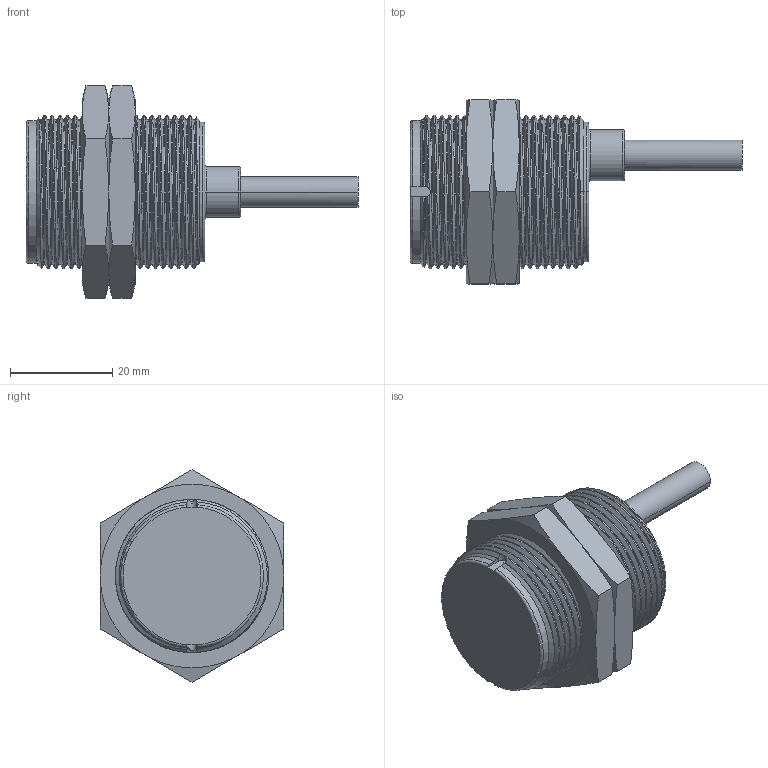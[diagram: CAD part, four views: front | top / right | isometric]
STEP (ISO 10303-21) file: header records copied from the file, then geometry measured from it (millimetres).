
FILE_DESCRIPTION((''),'2;1');
FILE_NAME('6490653380_SW0001','2025-01-14T11:19:54',('Rudolf.Poettker'),(''),'CREO PARAMETRIC BY PTC INC, 2022124','CREO PARAMETRIC BY PTC INC, 2022124','');
FILE_SCHEMA(('AUTOMOTIVE_DESIGN { 1 0 10303 214 1 1 1 1 }'));
Length unit declared in the file: millimetre
Products named in the file (1): 6490653380_SW0001
Bounding box: 65 x 36 x 41.57 mm (x, y, z)
Volume: 28882.2 mm3; surface area: 7836.7 mm2
Topology: 1 solids, 1 shells, 129 faces, 318 edges, 196 vertices
Faces by surface type: cylinder 39, cone 29, plane 27, bspline 24, torus 10
Entity records: 21971 total; most frequent: CARTESIAN_POINT 16615, ORIENTED_EDGE 636, PRESENTATION_STYLE_ASSIGNMENT 452, DIRECTION 435, STYLED_ITEM 323, CURVE_STYLE 322, EDGE_CURVE 318, VERTEX_POINT 196
